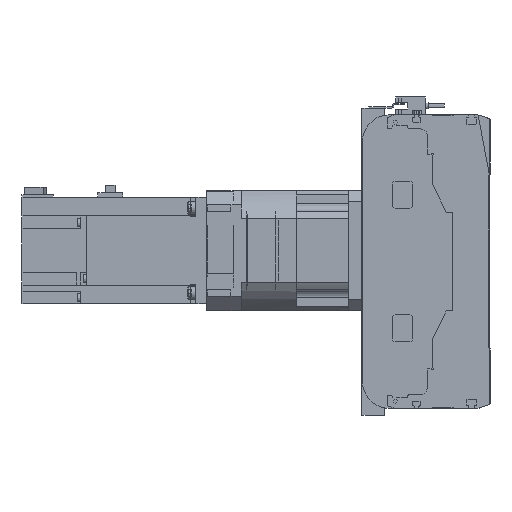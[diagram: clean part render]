
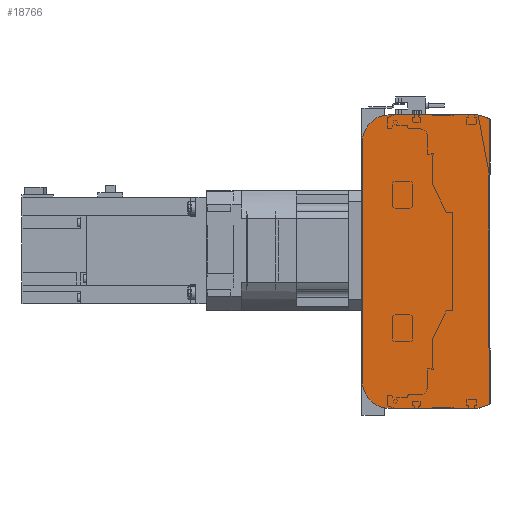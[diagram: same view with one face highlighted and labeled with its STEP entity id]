
A CAD part, left-side view. The second image highlights one B-rep face of the part: STEP entity #18766.
In plain terms, the highlighted planar face has unit normal (-1, 0, 0).
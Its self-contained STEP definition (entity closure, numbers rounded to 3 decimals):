
#1072=CIRCLE('',#20450,20.);
#1073=CIRCLE('',#20453,20.);
#4666=ORIENTED_EDGE('',*,*,#8136,.F.);
#4667=ORIENTED_EDGE('',*,*,#8178,.F.);
#4668=ORIENTED_EDGE('',*,*,#8176,.F.);
#4669=ORIENTED_EDGE('',*,*,#8174,.F.);
#4670=ORIENTED_EDGE('',*,*,#8163,.F.);
#4671=ORIENTED_EDGE('',*,*,#8154,.F.);
#4672=ORIENTED_EDGE('',*,*,#8150,.F.);
#4673=ORIENTED_EDGE('',*,*,#8147,.F.);
#8136=EDGE_CURVE('',#10215,#10216,#11899,.T.);
#8147=EDGE_CURVE('',#10216,#10223,#11910,.T.);
#8150=EDGE_CURVE('',#10223,#10225,#11913,.T.);
#8154=EDGE_CURVE('',#10225,#10226,#11917,.T.);
#8163=EDGE_CURVE('',#10226,#10232,#11926,.T.);
#8174=EDGE_CURVE('',#10232,#10239,#1072,.T.);
#8176=EDGE_CURVE('',#10239,#10240,#11938,.T.);
#8178=EDGE_CURVE('',#10240,#10215,#1073,.T.);
#10215=VERTEX_POINT('',#31032);
#10216=VERTEX_POINT('',#31034);
#10223=VERTEX_POINT('',#31053);
#10225=VERTEX_POINT('',#31059);
#10226=VERTEX_POINT('',#31065);
#10232=VERTEX_POINT('',#31081);
#10239=VERTEX_POINT('',#31100);
#10240=VERTEX_POINT('',#31104);
#11899=LINE('',#31033,#13482);
#11910=LINE('',#31052,#13493);
#11913=LINE('',#31058,#13496);
#11917=LINE('',#31064,#13500);
#11926=LINE('',#31080,#13509);
#11938=LINE('',#31103,#13521);
#13482=VECTOR('',#24765,1000.);
#13493=VECTOR('',#24778,1000.);
#13496=VECTOR('',#24783,1000.);
#13500=VECTOR('',#24789,1000.);
#13509=VECTOR('',#24800,1000.);
#13521=VECTOR('',#24818,1000.);
#14906=EDGE_LOOP('',(#4666,#4667,#4668,#4669,#4670,#4671,#4672,#4673));
#16666=FACE_BOUND('',#14906,.T.);
#17865=PLANE('',#20454);
#18766=ADVANCED_FACE('',(#16666),#17865,.F.);
#20450=AXIS2_PLACEMENT_3D('',#31099,#24813,#24814);
#20453=AXIS2_PLACEMENT_3D('',#31107,#24822,#24823);
#20454=AXIS2_PLACEMENT_3D('',#31108,#24824,#24825);
#24765=DIRECTION('',(0.,-1.,0.));
#24778=DIRECTION('',(0.,-0.945,-0.328));
#24783=DIRECTION('',(0.,0.,-1.));
#24789=DIRECTION('',(0.,0.945,-0.328));
#24800=DIRECTION('',(0.,1.,0.));
#24813=DIRECTION('',(1.,0.,0.));
#24814=DIRECTION('',(0.,0.,-1.));
#24818=DIRECTION('',(0.,0.,1.));
#24822=DIRECTION('',(1.,0.,0.));
#24823=DIRECTION('',(0.,0.,-1.));
#24824=DIRECTION('',(1.,0.,0.));
#24825=DIRECTION('',(0.,0.,-1.));
#31032=CARTESIAN_POINT('',(0.,75.5,110.));
#31033=CARTESIAN_POINT('',(0.,75.5,110.));
#31034=CARTESIAN_POINT('',(0.,9.,110.));
#31052=CARTESIAN_POINT('',(0.,9.,110.));
#31053=CARTESIAN_POINT('',(0.,0.5,107.05));
#31058=CARTESIAN_POINT('',(0.,0.5,107.05));
#31059=CARTESIAN_POINT('',(0.,0.5,-107.05));
#31064=CARTESIAN_POINT('',(0.,0.5,-107.05));
#31065=CARTESIAN_POINT('',(0.,9.,-110.));
#31080=CARTESIAN_POINT('',(0.,9.,-110.));
#31081=CARTESIAN_POINT('',(0.,75.5,-110.));
#31099=CARTESIAN_POINT('',(0.,75.5,-90.));
#31100=CARTESIAN_POINT('',(0.,95.5,-90.));
#31103=CARTESIAN_POINT('',(0.,95.5,-90.));
#31104=CARTESIAN_POINT('',(0.,95.5,90.));
#31107=CARTESIAN_POINT('',(0.,75.5,90.));
#31108=CARTESIAN_POINT('',(0.,75.5,-90.));
